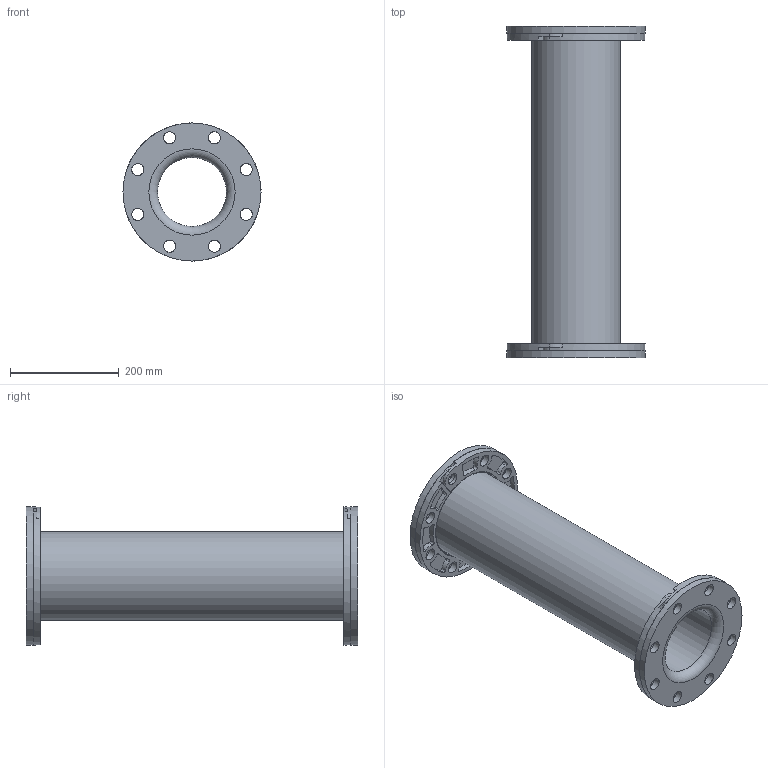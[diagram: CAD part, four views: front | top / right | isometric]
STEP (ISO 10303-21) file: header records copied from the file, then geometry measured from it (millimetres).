
FILE_DESCRIPTION(/* description */ (''),/* implementation_level */ '2;1');
FILE_NAME(/* name */ 'C:\001_Work\Designs\Mercer2014\MQInventor2014\RajR\150 Style\STP\STYLE 150 ASA150LB\150-5IDx24FF ASA150LB.stp',/* time_stamp */ '2016-05-20T18:46:00-04:00',/* author */ ('rramoutar'),/* organization */ ('Mason Industries Inc.'),/* preprocessor_version */ 'ST-DEVELOPER v15.6',/* originating_system */ 'Autodesk Inventor 2015',/* authorisation */ '');
FILE_SCHEMA (('CONFIG_CONTROL_DESIGN'));
Length unit declared in the file: inch
Products named in the file (1): 150-5IDx24FF
Bounding box: 254 x 609.6 x 254 mm (x, y, z)
Volume: 6112425.7 mm3; surface area: 870937.8 mm2
Topology: 3 solids, 3 shells, 258 faces, 700 edges, 466 vertices
Faces by surface type: cylinder 182, plane 64, torus 12
Full cylindrical faces by diameter (mm): 22.225 x36, 127 x1, 163.17 x1, 254 x4
Entity records: 8698 total; most frequent: CARTESIAN_POINT 1585, DIRECTION 1556, ORIENTED_EDGE 1300, AXIS2_PLACEMENT_3D 663, EDGE_CURVE 650, VERTEX_POINT 460, CIRCLE 404, EDGE_LOOP 390
